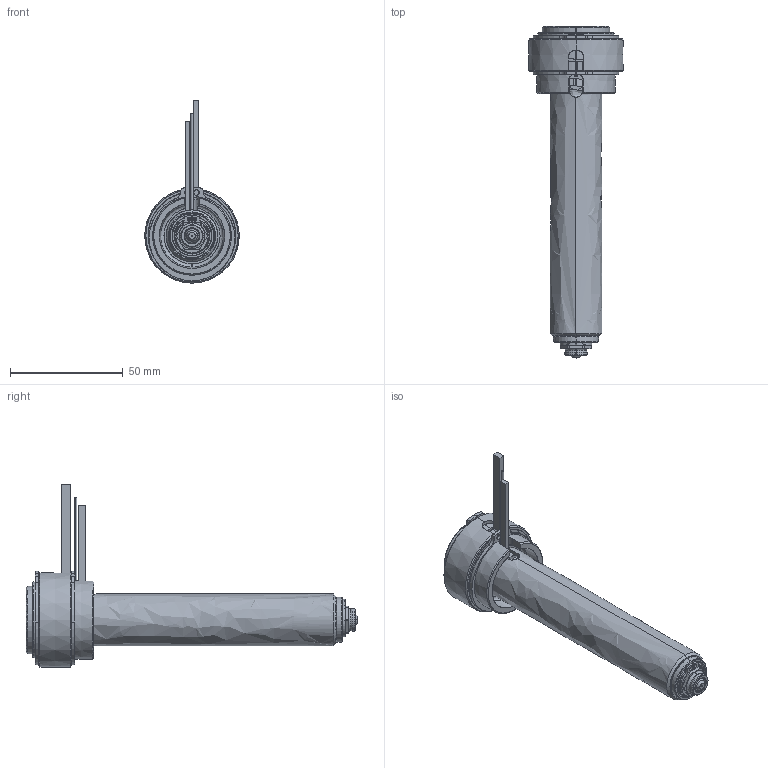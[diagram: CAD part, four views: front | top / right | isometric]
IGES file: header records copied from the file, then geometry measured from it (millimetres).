
Start section: SolidWorks IGES file using analytic representation for surfaces
Global section: file name: C:\Documents and Settings\ws-20\Desktop\TEM\UGER3553-M-A-1 [Øb-0.50  ØC-6.0].IGS; native system: SolidWorks 2012; preprocessor: SolidWorks 2012; author: ws-20; date: 120410.094823; units: millimetre
Bounding box: 42 x 147.4 x 80.9 mm (x, y, z)
Surface area: 43764.4 mm2 (no closed solid volume)
Topology: 0 solids, 0 shells, 196 faces, 3282 edges, 3282 vertices
Faces by surface type: revolution 123, bspline 73
